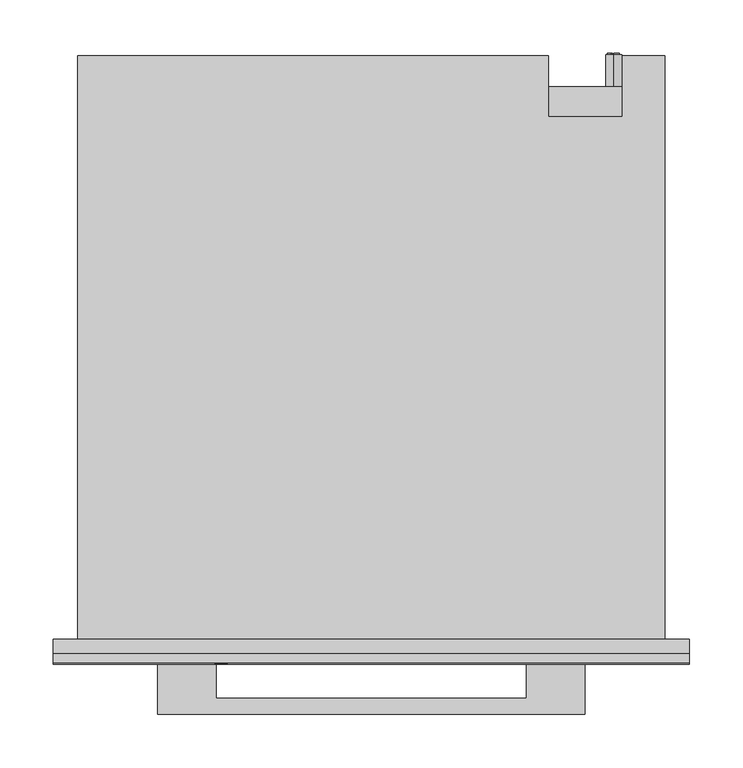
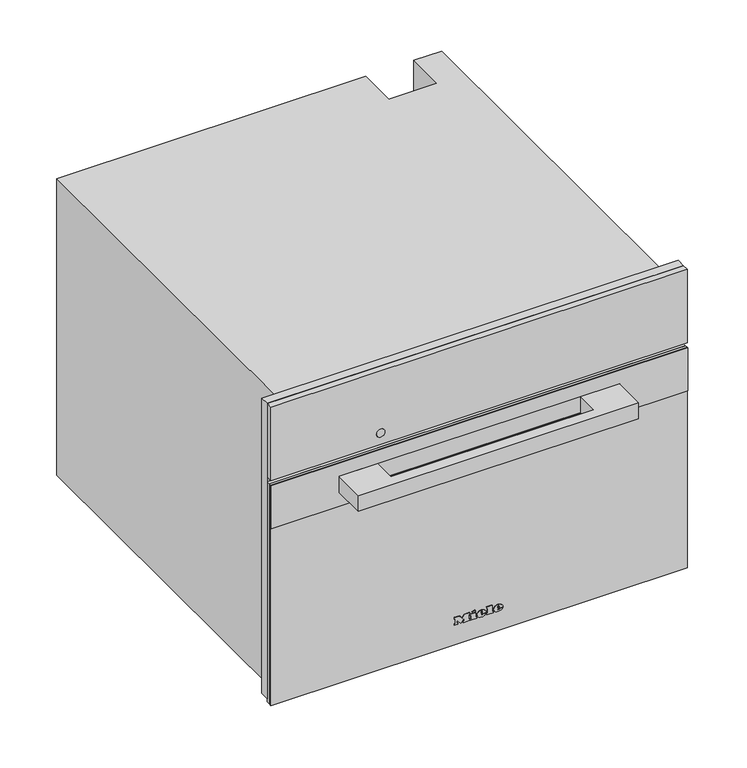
"""IFC4 building model written with IfcOpenShell, lengths in millimetres: proxy geometry, 12116100_I_DGC7440HCPro_EDST-C : 23744048_I_12116100_DGC7440HCPro_EDST-C."""

from ifc_helpers import new_model, si_unit, point, frame, frame_2d, origin, place, context, project, spatial, polyline, circle_curve, ellipse_curve, trimmed, segment, composite_curve, outline, extrude, faceted_brep, source, transform, mapped, element, save
from ifc_brep_helpers import plane_surface, cylinder_surface, revolved_surface, extruded_surface, advanced_brep


def specialty_equipment_984b1e7c(model_context):
    return source(origin(), model_context, "Body", "SolidModel", [
        extrude(outline(polyline([(455.0, 297.5), (455.0, -297.5), (9.0, -297.5), (9.0, 297.5), (455.0, 297.5)]), holes=[polyline([(344.0, -272.5), (344.0, 272.5), (27.0, 272.5), (27.0, -272.5), (344.0, -272.5)])]), frame((0.0, -13.0, 0.0), z_axis=(0.0, 1.0, 0.0), x_axis=(0.0, 0.0, 1.0)), (0.0, 0.0, 1.0), 13.0),
        advanced_brep(
        [(227.0, 547.0, 255.5), (227.0, 547.0, 240.5), (221.4098301, 547.0, 243.0), (225.5, 547.0, 243.0), (225.5, 547.0, 253.0), (224.4955303, 547.0, 253.0), (224.4955303, 547.0, 244.0), (221.0315043, 547.0, 244.0), (221.0315043, 547.0, 243.4582978), (232.0, 547.0, 243.0), (232.0, 547.0, 253.0), (227.0, 547.0, 253.0), (227.0, 547.0, 252.0), (231.0, 547.0, 252.0), (231.0, 547.0, 248.5), (228.0, 547.0, 248.5), (228.0, 547.0, 247.5), (231.0, 547.0, 247.5), (231.0, 547.0, 244.0), (227.0, 547.0, 244.0), (227.0, 547.0, 243.0), (227.0, 517.0, 240.5), (227.0, 517.0, 255.5), (232.0, 548.0, 253.0), (232.0, 548.0, 243.0), (227.0, 548.0, 243.0), (227.0, 548.0, 244.0), (231.0, 548.0, 244.0), (231.0, 548.0, 247.5), (228.0, 548.0, 247.5), (228.0, 548.0, 248.5), (231.0, 548.0, 248.5), (231.0, 548.0, 252.0), (227.0, 548.0, 252.0), (227.0, 548.0, 253.0), (225.5, 548.0, 243.0), (221.0315043, 548.0, 243.0), (221.0315043, 548.0, 244.0), (224.4955303, 548.0, 244.0), (224.4955303, 548.0, 253.0), (225.5, 548.0, 253.0), (221.0315043, 547.0, 243.0)],
        [
            (0, 1, circle_curve(frame((227.0, 547.0, 248.0), z_axis=(0.0, 1.0, 0.0), x_axis=(0.0, 0.0, 1.0)), 7.5)),
            (1, 2, circle_curve(frame((227.0, 547.0, 248.0), z_axis=(0.0, 1.0, 0.0), x_axis=(0.0, 0.0, 1.0)), 7.5)),
            (2, 3),
            (3, 4),
            (4, 5),
            (5, 6),
            (6, 7),
            (7, 8),
            (8, 0, circle_curve(frame((227.0, 547.0, 248.0), z_axis=(0.0, 1.0, 0.0), x_axis=(0.0, 0.0, 1.0)), 7.5)),
            (9, 10),
            (10, 11),
            (11, 12),
            (12, 13),
            (13, 14),
            (14, 15),
            (15, 16),
            (16, 17),
            (17, 18),
            (18, 19),
            (19, 20),
            (20, 9),
            (21, 22, circle_curve(frame((227.0, 517.0, 248.0), z_axis=(0.0, -1.0, 0.0), x_axis=(0.0, 0.0, 1.0)), 7.5)),
            (22, 21, circle_curve(frame((227.0, 517.0, 248.0), z_axis=(0.0, -1.0, 0.0), x_axis=(0.0, 0.0, 1.0)), 7.5)),
            (0, 22),
            (21, 1),
            (8, 2, circle_curve(frame((227.0, 547.0, 248.0), z_axis=(0.0, -1.0, 0.0), x_axis=(0.0, 0.0, 1.0)), 7.5)),
            (23, 24),
            (24, 25),
            (25, 26),
            (26, 27),
            (27, 28),
            (28, 29),
            (29, 30),
            (30, 31),
            (31, 32),
            (32, 33),
            (33, 34),
            (34, 23),
            (35, 36),
            (36, 37),
            (37, 38),
            (38, 39),
            (39, 40),
            (40, 35),
            (8, 41),
            (41, 2),
            (23, 10),
            (9, 24),
            (20, 25),
            (19, 26),
            (18, 27),
            (17, 28),
            (16, 29),
            (15, 30),
            (14, 31),
            (13, 32),
            (12, 33),
            (11, 34),
            (35, 3),
            (41, 36),
            (7, 37),
            (6, 38),
            (5, 39),
            (4, 40),
        ],
        [
            plane_surface(frame((227.0, 547.0, 255.5), z_axis=(0.0, 1.0, 0.0), x_axis=(1.0, 0.0, 0.0))),
            plane_surface(frame((227.0, 517.0, 255.5), z_axis=(0.0, -1.0, 0.0), x_axis=(-1.0, 0.0, 0.0))),
            cylinder_surface(frame((227.0, 547.0, 248.0), z_axis=(0.0, -1.0, 0.0), x_axis=(0.0, 0.0, 1.0)), 7.5),
            plane_surface(frame((232.0, 548.0, 253.0), z_axis=(0.0, 1.0, 0.0), x_axis=(0.0, 0.0, -1.0))),
            plane_surface(frame((232.0, 547.0, 253.0), z_axis=(0.0, -1.0, 0.0), x_axis=(0.0, 0.0, 1.0))),
            plane_surface(frame((232.0, 548.0, 253.0), z_axis=(1.0, 0.0, 0.0), x_axis=(0.0, -1.0, 0.0))),
            plane_surface(frame((232.0, 548.0, 243.0), z_axis=(0.0, 0.0, -1.0), x_axis=(0.0, -1.0, 0.0))),
            plane_surface(frame((227.0, 548.0, 243.0), z_axis=(-1.0, 0.0, 0.0), x_axis=(0.0, -1.0, 0.0))),
            plane_surface(frame((227.0, 548.0, 244.0), z_axis=(0.0, 0.0, 1.0), x_axis=(0.0, -1.0, 0.0))),
            plane_surface(frame((231.0, 548.0, 244.0), z_axis=(-1.0, 0.0, 0.0), x_axis=(0.0, -1.0, 0.0))),
            plane_surface(frame((231.0, 548.0, 247.5), z_axis=(0.0, 0.0, -1.0), x_axis=(0.0, -1.0, 0.0))),
            plane_surface(frame((228.0, 548.0, 247.5), z_axis=(-1.0, 0.0, 0.0), x_axis=(0.0, -1.0, 0.0))),
            plane_surface(frame((228.0, 548.0, 248.5), z_axis=(0.0, 0.0, 1.0), x_axis=(0.0, -1.0, 0.0))),
            plane_surface(frame((231.0, 548.0, 248.5), z_axis=(-1.0, 0.0, 0.0), x_axis=(0.0, -1.0, 0.0))),
            plane_surface(frame((231.0, 548.0, 252.0), z_axis=(0.0, 0.0, -1.0), x_axis=(0.0, -1.0, 0.0))),
            plane_surface(frame((227.0, 548.0, 252.0), z_axis=(-1.0, 0.0, 0.0), x_axis=(0.0, -1.0, 0.0))),
            plane_surface(frame((227.0, 548.0, 253.0), z_axis=(0.0, 0.0, 1.0), x_axis=(0.0, -1.0, 0.0))),
            plane_surface(frame((225.5, 548.0, 243.0), z_axis=(0.0, 0.0, -1.0), x_axis=(0.0, -1.0, 0.0))),
            plane_surface(frame((221.0315043, 548.0, 243.0), z_axis=(-1.0, 0.0, 0.0), x_axis=(0.0, -1.0, 0.0))),
            plane_surface(frame((221.0315043, 548.0, 244.0), z_axis=(0.0, 0.0, 1.0), x_axis=(0.0, -1.0, 0.0))),
            plane_surface(frame((224.4955303, 548.0, 244.0), z_axis=(-1.0, 0.0, 0.0), x_axis=(0.0, -1.0, 0.0))),
            plane_surface(frame((224.4955303, 548.0, 253.0), z_axis=(0.0, 0.0, 1.0), x_axis=(0.0, -1.0, 0.0))),
            plane_surface(frame((225.5, 548.0, 253.0), z_axis=(1.0, 0.0, 0.0), x_axis=(0.0, -1.0, 0.0))),
        ],
        [
            (0, [[1, 2, 3, 4, 5, 6, 7, 8, 9], [10, 11, 12, 13, 14, 15, 16, 17, 18, 19, 20, 21]]),
            (1, [[22, 23]]),
            (2, [[-1, 24, -22, 25]]),
            (2, [[-23, -24, -9, 26, -2, -25]]),
            (3, [[27, 28, 29, 30, 31, 32, 33, 34, 35, 36, 37, 38]]),
            (3, [[39, 40, 41, 42, 43, 44]]),
            (4, [[45, 46, -26]]),
            (5, [[-27, 47, -10, 48]]),
            (6, [[-28, -48, -21, 49]]),
            (7, [[-29, -49, -20, 50]]),
            (8, [[-30, -50, -19, 51]]),
            (9, [[-31, -51, -18, 52]]),
            (10, [[-32, -52, -17, 53]]),
            (11, [[-33, -53, -16, 54]]),
            (12, [[-34, -54, -15, 55]]),
            (13, [[-35, -55, -14, 56]]),
            (14, [[-36, -56, -13, 57]]),
            (15, [[-37, -57, -12, 58]]),
            (16, [[-38, -58, -11, -47]]),
            (17, [[-39, 59, -3, -46, 60]]),
            (18, [[-40, -60, -45, -8, 61]]),
            (19, [[-41, -61, -7, 62]]),
            (20, [[-42, -62, -6, 63]]),
            (21, [[-43, -63, -5, 64]]),
            (22, [[-44, -64, -4, -59]]),
        ],
    ),
        faceted_brep([(-275.0, 546.0, 0.0), (-275.0, 546.0, 448.0), (166.0, 546.0, 448.0), (166.0, 546.0, 0.0), (235.0, 546.0, 448.0), (275.0, 546.0, 448.0), (275.0, 546.0, 338.0), (235.0, 546.0, 338.0), (275.0, 0.0, 448.0), (-275.0, 0.0, 448.0), (-275.0, 0.0, 0.0), (275.0, 0.0, 0.0), (-272.5, 0.0, 344.0), (272.5, 0.0, 344.0), (272.5, 0.0, 27.0), (-272.5, 0.0, 27.0), (235.0, 489.0, 448.0), (166.0, 489.0, 448.0), (166.0, 517.0, 0.0), (275.0, 517.0, 0.0), (275.0, 517.0, 338.0), (272.5, 17.0, 344.0), (-272.5, 17.0, 344.0), (-272.5, 17.0, 27.0), (272.5, 17.0, 27.0), (231.0, 17.0, 307.0), (231.0, 17.0, 65.0), (-231.0, 17.0, 65.0), (-231.0, 17.0, 307.0), (231.0, 411.0, 307.0), (-231.0, 411.0, 307.0), (-231.0, 411.0, 65.0), (231.0, 411.0, 65.0), (235.0, 489.0, 337.0), (166.0, 489.0, 337.0), (166.0, 517.0, 337.0), (235.0, 517.0, 337.0), (235.0, 517.0, 338.0)], [[[0, 1, 2, 3]], [[4, 5, 6, 7]], [[8, 9, 10, 11], [12, 13, 14, 15]], [[9, 8, 5, 4, 16, 17, 2, 1]], [[1, 0, 10, 9]], [[11, 10, 0, 3, 18, 19]], [[8, 11, 19, 20, 6, 5]], [[21, 22, 23, 24], [25, 26, 27, 28]], [[22, 21, 13, 12]], [[23, 22, 12, 15]], [[24, 23, 15, 14]], [[21, 24, 14, 13]], [[29, 30, 31, 32]], [[29, 32, 26, 25]], [[32, 31, 27, 26]], [[31, 30, 28, 27]], [[30, 29, 25, 28]], [[16, 33, 34, 17]], [[17, 34, 35, 18, 3, 2]], [[34, 33, 36, 35]], [[33, 16, 4, 7, 37, 36]], [[37, 20, 19, 18, 35, 36]], [[20, 37, 7, 6]]]),
        advanced_brep(
        [(26.2998, -23.0, 36.7018), (26.2998, -23.0, 37.8532), (33.9264, -23.0, 37.8532), (20.6568, -23.0, 37.8532), (23.7918, -23.0, 34.0), (33.7326, -23.0, 36.7018), (30.2898, -23.0, 36.7018), (27.5766, -23.0, 35.425), (26.2998, -23.0, 39.3124), (26.2998, -23.0, 40.555), (28.2492, -23.0, 40.555), (28.2492, -23.0, 39.3124), (26.2998, -22.0, 36.7018), (27.5766, -22.0, 35.425), (30.2898, -22.0, 36.7018), (33.7326, -22.0, 36.7018), (23.7918, -22.0, 34.0), (20.6568, -22.0, 37.8532), (33.9264, -22.0, 37.8532), (26.2998, -22.0, 37.8532), (26.2998, -22.0, 39.3124), (28.2492, -22.0, 39.3124), (28.2492, -22.0, 40.555), (26.2998, -22.0, 40.555)],
        [
            (0, 1),
            (1, 2),
            (2, 3, ellipse_curve(frame((27.2916, -23.0, 37.8532), z_axis=(0.0, -1.0, 0.0), x_axis=(-1.0, 0.0, 0.0)), 6.6348, 5.4834)),
            (3, 4, circle_curve(frame((25.0686622, -23.0, 38.2408), z_axis=(0.0, -1.0, 0.0), x_axis=(0.0, 0.0, -1.0)), 4.4288556)),
            (4, 5, circle_curve(frame((27.1587808, -23.0, 41.2504), z_axis=(0.0, -1.0, 0.0), x_axis=(0.0, 0.0, -1.0)), 7.9940516)),
            (5, 6),
            (6, 7, circle_curve(frame((28.1338588, -23.0, 37.762), z_axis=(0.0, 1.0, 0.0), x_axis=(0.0, 0.0, -1.0)), 2.4025208)),
            (7, 0, circle_curve(frame((27.5766, -23.0, 36.7018), z_axis=(0.0, 1.0, 0.0), x_axis=(0.0, 0.0, -1.0)), 1.2768)),
            (8, 9),
            (9, 10, circle_curve(frame((27.2745, -23.0, 40.555), z_axis=(0.0, 1.0, 0.0), x_axis=(0.0, 0.0, -1.0)), 0.9747)),
            (10, 11),
            (11, 8),
            (12, 13, circle_curve(frame((27.5766, -22.0, 36.7018), z_axis=(0.0, -1.0, 0.0), x_axis=(0.0, 0.0, -1.0)), 1.2768)),
            (13, 14, circle_curve(frame((28.1338588, -22.0, 37.762), z_axis=(0.0, -1.0, 0.0), x_axis=(0.0, 0.0, -1.0)), 2.4025208)),
            (14, 15),
            (15, 16, circle_curve(frame((27.1587808, -22.0, 41.2504), z_axis=(0.0, 1.0, 0.0), x_axis=(0.0, 0.0, -1.0)), 7.9940516)),
            (16, 17, circle_curve(frame((25.0686622, -22.0, 38.2408), z_axis=(0.0, 1.0, 0.0), x_axis=(0.0, 0.0, -1.0)), 4.4288556)),
            (17, 18, ellipse_curve(frame((27.2916, -22.0, 37.8532), z_axis=(0.0, 1.0, 0.0), x_axis=(-1.0, 0.0, 0.0)), 6.6348, 5.4834)),
            (18, 19),
            (19, 12),
            (20, 21),
            (21, 22),
            (22, 23, circle_curve(frame((27.2745, -22.0, 40.555), z_axis=(0.0, -1.0, 0.0), x_axis=(0.0, 0.0, -1.0)), 0.9747)),
            (23, 20),
            (0, 12),
            (19, 1),
            (18, 2),
            (5, 15),
            (14, 6),
            (17, 3),
            (13, 7),
            (16, 4),
            (8, 20),
            (23, 9),
            (22, 10),
            (21, 11),
        ],
        [
            plane_surface(frame((26.2998, -23.0, 37.8532), z_axis=(0.0, -1.0, 0.0), x_axis=(0.0, 0.0, 1.0))),
            plane_surface(frame((26.2998, -22.0, 37.8532), z_axis=(0.0, 1.0, 0.0), x_axis=(0.0, 0.0, -1.0))),
            plane_surface(frame((26.2998, -23.0, 36.7018), z_axis=(1.0, 0.0, 0.0), x_axis=(0.0, 1.0, 0.0))),
            plane_surface(frame((26.2998, -23.0, 37.8532), z_axis=(0.0, 0.0, -1.0), x_axis=(0.0, 1.0, 0.0))),
            plane_surface(frame((33.7326, -23.0, 36.7018), z_axis=(0.0, 0.0, 1.0), x_axis=(0.0, 1.0, 0.0))),
            extruded_surface(trimmed(ellipse_curve(frame((27.2916, -21.0, 37.8532), z_axis=(0.0, -1.0, 0.0), x_axis=(-1.0, 0.0, 0.0)), 6.6348, 5.4834), [point((33.9264, -21.0, 37.8532))], [point((20.6568, -21.0, 37.8532))], True, "CARTESIAN"), (0.0, -1.0, 0.0), 1.0),
            revolved_surface(polyline([(28.1338588, -22.0, 35.3594792), (28.1338588, -23.0, 35.3594792)]), (28.1338588, -22.0, 37.762), (0.0, 1.0, 0.0)),
            revolved_surface(polyline([(27.5766, -22.0, 35.425), (27.5766, -23.0, 35.425)]), (27.5766, -22.0, 36.7018), (0.0, 1.0, 0.0)),
            cylinder_surface(frame((25.0686622, -22.0, 38.2408), z_axis=(0.0, -1.0, 0.0), x_axis=(0.0, 0.0, -1.0)), 4.4288556),
            cylinder_surface(frame((27.1587808, -22.0, 41.2504), z_axis=(0.0, -1.0, 0.0), x_axis=(0.0, 0.0, -1.0)), 7.9940516),
            plane_surface(frame((26.2998, -23.0, 39.3124), z_axis=(1.0, 0.0, 0.0), x_axis=(0.0, 1.0, 0.0))),
            revolved_surface(polyline([(27.2745, -22.0, 39.5803), (27.2745, -23.0, 39.5803)]), (27.2745, -22.0, 40.555), (0.0, 1.0, 0.0)),
            plane_surface(frame((28.2492, -23.0, 40.555), z_axis=(-1.0, 0.0, 0.0), x_axis=(0.0, 1.0, 0.0))),
            plane_surface(frame((28.2492, -23.0, 39.3124), z_axis=(0.0, 0.0, 1.0), x_axis=(0.0, 1.0, 0.0))),
        ],
        [
            (0, [[1, 2, 3, 4, 5, 6, 7, 8], [9, 10, 11, 12]]),
            (1, [[13, 14, 15, 16, 17, 18, 19, 20], [21, 22, 23, 24]]),
            (2, [[-1, 25, -20, 26]]),
            (3, [[-2, -26, -19, 27]]),
            (4, [[-6, 28, -15, 29]]),
            (5, [[-3, -27, -18, 30]]),
            (6, [[-7, -29, -14, 31]]),
            (7, [[-8, -31, -13, -25]]),
            (8, [[-4, -30, -17, 32]]),
            (9, [[-5, -32, -16, -28]]),
            (10, [[-9, 33, -24, 34]]),
            (11, [[-10, -34, -23, 35]]),
            (12, [[-11, -35, -22, 36]]),
            (13, [[-12, -36, -21, -33]]),
        ],
    ),
        advanced_brep(
        [(2.508, -23.0, 36.7018), (2.508, -23.0, 37.8532), (10.1346, -23.0, 37.8532), (-3.135, -23.0, 37.8532), (0.0, -23.0, 34.0), (9.9408, -23.0, 36.7018), (6.498, -23.0, 36.7018), (3.7848, -23.0, 35.425), (2.508, -23.0, 39.3124), (2.508, -23.0, 40.555), (4.4574, -23.0, 40.555), (4.4574, -23.0, 39.3124), (2.508, -22.0, 36.7018), (3.7848, -22.0, 35.425), (6.498, -22.0, 36.7018), (9.9408, -22.0, 36.7018), (0.0, -22.0, 34.0), (-3.135, -22.0, 37.8532), (10.1346, -22.0, 37.8532), (2.508, -22.0, 37.8532), (2.508, -22.0, 39.3124), (4.4574, -22.0, 39.3124), (4.4574, -22.0, 40.555), (2.508, -22.0, 40.555)],
        [
            (0, 1),
            (1, 2),
            (2, 3, ellipse_curve(frame((3.4998, -23.0, 37.8532), z_axis=(0.0, -1.0, 0.0), x_axis=(-1.0, 0.0, 0.0)), 6.6348, 5.4834)),
            (3, 4, circle_curve(frame((1.2768622, -23.0, 38.2408), z_axis=(0.0, -1.0, 0.0), x_axis=(0.0, 0.0, -1.0)), 4.4288556)),
            (4, 5, circle_curve(frame((3.3669808, -23.0, 41.2504), z_axis=(0.0, -1.0, 0.0), x_axis=(0.0, 0.0, -1.0)), 7.9940516)),
            (5, 6),
            (6, 7, circle_curve(frame((4.3420588, -23.0, 37.762), z_axis=(0.0, 1.0, 0.0), x_axis=(0.0, 0.0, -1.0)), 2.4025208)),
            (7, 0, circle_curve(frame((3.7848, -23.0, 36.7018), z_axis=(0.0, 1.0, 0.0), x_axis=(0.0, 0.0, -1.0)), 1.2768)),
            (8, 9),
            (9, 10, circle_curve(frame((3.4827, -23.0, 40.555), z_axis=(0.0, 1.0, 0.0), x_axis=(0.0, 0.0, -1.0)), 0.9747)),
            (10, 11),
            (11, 8),
            (12, 13, circle_curve(frame((3.7848, -22.0, 36.7018), z_axis=(0.0, -1.0, 0.0), x_axis=(0.0, 0.0, -1.0)), 1.2768)),
            (13, 14, circle_curve(frame((4.3420588, -22.0, 37.762), z_axis=(0.0, -1.0, 0.0), x_axis=(0.0, 0.0, -1.0)), 2.4025208)),
            (14, 15),
            (15, 16, circle_curve(frame((3.3669808, -22.0, 41.2504), z_axis=(0.0, 1.0, 0.0), x_axis=(0.0, 0.0, -1.0)), 7.9940516)),
            (16, 17, circle_curve(frame((1.2768622, -22.0, 38.2408), z_axis=(0.0, 1.0, 0.0), x_axis=(0.0, 0.0, -1.0)), 4.4288556)),
            (17, 18, ellipse_curve(frame((3.4998, -22.0, 37.8532), z_axis=(0.0, 1.0, 0.0), x_axis=(-1.0, 0.0, 0.0)), 6.6348, 5.4834)),
            (18, 19),
            (19, 12),
            (20, 21),
            (21, 22),
            (22, 23, circle_curve(frame((3.4827, -22.0, 40.555), z_axis=(0.0, -1.0, 0.0), x_axis=(0.0, 0.0, -1.0)), 0.9747)),
            (23, 20),
            (0, 12),
            (19, 1),
            (18, 2),
            (5, 15),
            (14, 6),
            (17, 3),
            (13, 7),
            (16, 4),
            (8, 20),
            (23, 9),
            (22, 10),
            (21, 11),
        ],
        [
            plane_surface(frame((2.508, -23.0, 37.8532), z_axis=(0.0, -1.0, 0.0), x_axis=(0.0, 0.0, 1.0))),
            plane_surface(frame((2.508, -22.0, 37.8532), z_axis=(0.0, 1.0, 0.0), x_axis=(0.0, 0.0, -1.0))),
            plane_surface(frame((2.508, -23.0, 36.7018), z_axis=(1.0, 0.0, 0.0), x_axis=(0.0, 1.0, 0.0))),
            plane_surface(frame((2.508, -23.0, 37.8532), z_axis=(0.0, 0.0, -1.0), x_axis=(0.0, 1.0, 0.0))),
            plane_surface(frame((9.9408, -23.0, 36.7018), z_axis=(0.0, 0.0, 1.0), x_axis=(0.0, 1.0, 0.0))),
            extruded_surface(trimmed(ellipse_curve(frame((3.4998, -21.0, 37.8532), z_axis=(0.0, -1.0, 0.0), x_axis=(-1.0, 0.0, 0.0)), 6.6348, 5.4834), [point((10.1346, -21.0, 37.8532))], [point((-3.135, -21.0, 37.8532))], True, "CARTESIAN"), (0.0, -1.0, 0.0), 1.0),
            revolved_surface(polyline([(4.3420588, -22.0, 35.3594792), (4.3420588, -23.0, 35.3594792)]), (4.3420588, -22.0, 37.762), (0.0, 1.0, 0.0)),
            revolved_surface(polyline([(3.7848, -22.0, 35.425), (3.7848, -23.0, 35.425)]), (3.7848, -22.0, 36.7018), (0.0, 1.0, 0.0)),
            cylinder_surface(frame((1.2768622, -22.0, 38.2408), z_axis=(0.0, -1.0, 0.0), x_axis=(0.0, 0.0, -1.0)), 4.4288556),
            cylinder_surface(frame((3.3669808, -22.0, 41.2504), z_axis=(0.0, -1.0, 0.0), x_axis=(0.0, 0.0, -1.0)), 7.9940516),
            plane_surface(frame((2.508, -23.0, 39.3124), z_axis=(1.0, 0.0, 0.0), x_axis=(0.0, 1.0, 0.0))),
            revolved_surface(polyline([(3.4827, -22.0, 39.5803), (3.4827, -23.0, 39.5803)]), (3.4827, -22.0, 40.555), (0.0, 1.0, 0.0)),
            plane_surface(frame((4.4574, -23.0, 40.555), z_axis=(-1.0, 0.0, 0.0), x_axis=(0.0, 1.0, 0.0))),
            plane_surface(frame((4.4574, -23.0, 39.3124), z_axis=(0.0, 0.0, 1.0), x_axis=(0.0, 1.0, 0.0))),
        ],
        [
            (0, [[1, 2, 3, 4, 5, 6, 7, 8], [9, 10, 11, 12]]),
            (1, [[13, 14, 15, 16, 17, 18, 19, 20], [21, 22, 23, 24]]),
            (2, [[-1, 25, -20, 26]]),
            (3, [[-2, -26, -19, 27]]),
            (4, [[-6, 28, -15, 29]]),
            (5, [[-3, -27, -18, 30]]),
            (6, [[-7, -29, -14, 31]]),
            (7, [[-8, -31, -13, -25]]),
            (8, [[-4, -30, -17, 32]]),
            (9, [[-5, -32, -16, -28]]),
            (10, [[-9, 33, -24, 34]]),
            (11, [[-10, -34, -23, 35]]),
            (12, [[-11, -35, -22, 36]]),
            (13, [[-12, -36, -21, -33]]),
        ],
    ),
        extrude(outline(polyline([(44.7274, -9.9522), (42.8806, -9.0858), (44.6818, -5.2212), (46.5286, -6.0762), (44.7274, -9.9522)])), frame((0.0, -23.0, 0.0), z_axis=(0.0, 1.0, 0.0), x_axis=(0.0, 0.0, 1.0)), (0.0, 0.0, 1.0), 1.0),
        extrude(outline(polyline([(42.6298, -12.768), (40.5892, -12.768), (40.5892, -11.4114), (35.9152, -11.4114), (35.9152, -12.768), (34.0, -12.768), (34.0, -3.7734), (35.9152, -3.7734), (35.9152, -5.0958), (42.6298, -5.0958), (42.6298, -12.768)])), frame((0.0, -23.0, 0.0), z_axis=(0.0, 1.0, 0.0), x_axis=(0.0, 0.0, 1.0)), (0.0, 0.0, 1.0), 1.0),
        extrude(outline(polyline([(43.5418, 10.773), (43.5418, 12.141), (35.9152, 12.141), (35.9152, 10.773), (34.0, 10.773), (34.0, 20.0184), (35.9152, 20.0184), (35.9152, 18.6162), (45.4, 18.6162), (45.4, 10.773), (43.5418, 10.773)])), frame((0.0, -23.0, 0.0), z_axis=(0.0, 1.0, 0.0), x_axis=(0.0, 0.0, 1.0)), (0.0, 0.0, 1.0), 1.0),
        extrude(outline(polyline([(43.5418, -35.4882), (43.5418, -34.1088), (35.9152, -34.1088), (35.9152, -35.4882), (34.0, -35.4882), (34.0, -30.4722), (35.9152, -30.4722), (35.9152, -31.8402), (40.7429247, -31.8402), (34.0, -26.7444), (40.9402223, -21.6258), (35.9152, -21.6258), (35.9152, -23.028), (34.0, -23.028), (34.0, -13.9308), (35.9152, -13.9308), (35.9152, -15.3786), (43.5418, -15.3786), (43.5418, -13.9308), (45.4, -13.9308), (45.4, -20.8734), (41.125, -24.2022), (45.4, -27.5424), (45.4, -35.4882), (43.5418, -35.4882)])), frame((0.0, -23.0, 0.0), z_axis=(0.0, 1.0, 0.0), x_axis=(0.0, 0.0, 1.0)), (0.0, 0.0, 1.0), 1.0),
        extrude(outline(polyline([(297.5, -22.0), (-297.5, -22.0), (-297.5, -13.0), (297.5, -13.0), (297.5, -22.0)])), frame((0.0, 0.0, 344.0), z_axis=(0.0, 0.0, 1.0), x_axis=(1.0, 0.0, 0.0)), (0.0, 0.0, 1.0), 111.0),
        extrude(outline(composite_curve([segment(trimmed(circle_curve(frame_2d((361.0, -140.5745637)), 6.0), [point((361.0, -146.5745637))], [point((361.0, -134.5745637))], False, "CARTESIAN"), True, "CONTINUOUS"), segment(trimmed(circle_curve(frame_2d((361.0, -140.5745637)), 6.0), [point((361.0, -134.5745637))], [point((361.0, -146.5745637))], False, "CARTESIAN"), True, "CONTINUOUS")], self_intersect=False)), frame((0.0, -22.5, 0.0), z_axis=(0.0, 1.0, 0.0), x_axis=(0.0, 0.0, 1.0)), (0.0, 0.0, 1.0), 1.0),
        extrude(outline(polyline([(297.5, -18.0), (-297.5, -18.0), (-297.5, -13.0), (297.5, -13.0), (297.5, -18.0)])), frame((0.0, 0.0, 4.0), z_axis=(0.0, 0.0, 1.0), x_axis=(1.0, 0.0, 0.0)), (0.0, 0.0, 1.0), 333.0),
        extrude(outline(polyline([(-297.5, -18.0), (297.5, -18.0), (297.5, -22.0), (-297.5, -22.0), (-297.5, -18.0)])), frame((0.0, 0.0, 4.0), z_axis=(0.0, 0.0, 1.0), x_axis=(1.0, 0.0, 0.0)), (0.0, 0.0, 1.0), 333.0),
        extrude(outline(polyline([(-200.0, -70.3), (-200.0, -22.0), (-145.0, -22.0), (-145.0, -55.3), (145.0, -55.3), (145.0, -22.0), (200.0, -22.0), (200.0, -70.3), (-200.0, -70.3)])), frame((0.0, 0.0, 292.5), z_axis=(0.0, 0.0, 1.0), x_axis=(1.0, 0.0, 0.0)), (0.0, 0.0, 1.0), 24.0),
        extrude(outline(polyline([(337.0, 297.5), (337.0, -297.5), (272.0, -297.5), (272.0, 297.5), (337.0, 297.5)]), holes=[polyline([(317.0, -200.5), (317.0, 200.5), (292.0, 200.5), (292.0, -200.5), (317.0, -200.5)])]), frame((0.0, -23.3, 0.0), z_axis=(0.0, 1.0, 0.0), x_axis=(0.0, 0.0, 1.0)), (0.0, 0.0, 1.0), 1.3),
    ])


if __name__ == "__main__":
    model = new_model("IFC4")
    model_context = context("Model", 3, world=origin())
    ifc_project = project(units=[si_unit("LENGTHUNIT", "METRE", prefix="MILLI")], contexts=[model_context])
    site = spatial("IfcSite", under=ifc_project)
    building = spatial("IfcBuilding", under=site)
    placement = place(None, origin())
    specialty_equipment_shape = specialty_equipment_984b1e7c(model_context)
    element("IfcBuildingElementProxy", 1, Name="12116100_I_DGC7440HCPro_EDST-C : 23744048_I_12116100_DGC7440HCPro_EDST-C", ObjectType="12116100_I_DGC7440HCPro_EDST-C : 23744048_I_12116100_DGC7440HCPro_EDST-C", at=placement, inside=building, context=model_context, shape_type="MappedRepresentation", body=[
        mapped(specialty_equipment_shape, transform((0.0, 0.0, 0.0), x_axis=(1.0, 0.0, 0.0), y_axis=(0.0, 1.0, 0.0), z_axis=(0.0, 0.0, 1.0))),
    ])
    save(model, "model.ifc")
